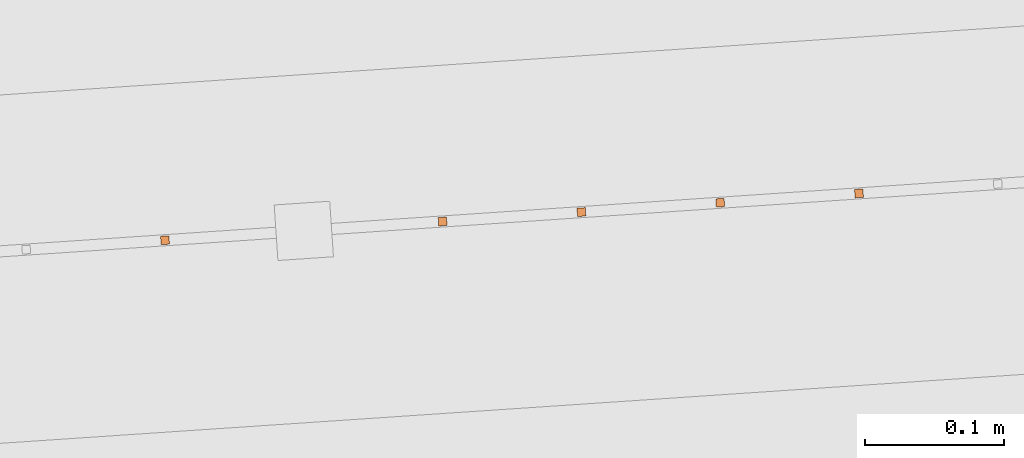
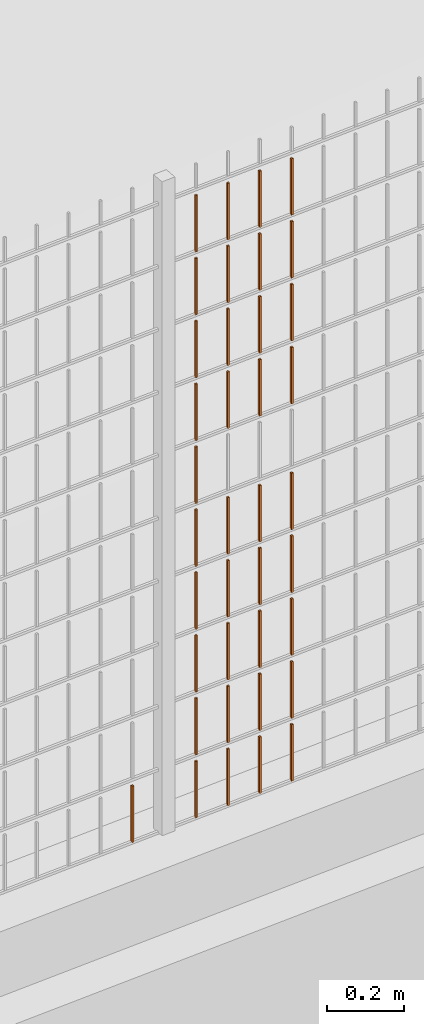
# One storey, part 172 of 1809: 38 proxies, 1 element without a shape of its own.
"""IFC2X3 building model written with IfcOpenShell, lengths in millimetres."""

import ifcopenshell
import ifcopenshell.guid

model = None  # the IFC model being written
_history = None  # IfcOwnerHistory: only IFC2X3 demands one
_inside = {}  # id of a spatial element -> (the spatial element, [elements in it])
_under = {}  # id of a project, library or spatial element -> (it, [spatial elements below it])
_declared = {}  # id of a project -> (the project, [libraries it declares])
_typed = {}  # id of a type object -> (the type object, [elements of that type])
_made_of = {}  # id of a material, layer set ... -> (it, [elements and type objects made of it])


def new_model(schema):
    """Start an empty IFC model of exactly this schema.

    Asked for "IFC4X3", IfcOpenShell would pick the latest addendum, in which some entities
    have other attributes; the version numbers below select the first issue.
    IFC2X3 requires an IfcOwnerHistory on every rooted entity: one is made here for all.
    """
    global model, _history
    if schema == "IFC4X3":
        model = ifcopenshell.file(schema_version=(4, 3, 0, 0))
    else:
        model = ifcopenshell.file(schema=schema)
    _inside.clear()
    _under.clear()
    _declared.clear()
    _typed.clear()
    _made_of.clear()
    _history = None
    if model.schema == "IFC2X3":
        org = make("IfcOrganization", Name="unknown")
        user = make(
            "IfcPersonAndOrganization",
            ThePerson=make("IfcPerson", FamilyName="unknown"),
            TheOrganization=org,
        )
        app = make(
            "IfcApplication",
            ApplicationDeveloper=org,
            Version="unknown",
            ApplicationFullName="unknown",
            ApplicationIdentifier="unknown",
        )
        _history = make(
            "IfcOwnerHistory",
            OwningUser=user,
            OwningApplication=app,
            ChangeAction="ADDED",
            CreationDate=0,
        )
    return model


def make(cls, **values):
    """One entity of the class cls with the attributes given. An attribute that is None is left unset."""
    return model.create_entity(
        cls, **{name: value for name, value in values.items() if value is not None}
    )


def entity(cls, *values):
    """Any entity or typed value of the class cls, its attributes in the order of the schema. None: left unset."""
    e = model.create_entity(cls)
    for i, value in enumerate(values):
        if value is not None:
            e[i] = value
    return e


def rooted(cls, **values):
    """An entity with a GlobalId (a new one), such as an element, a storey or a relation."""
    return make(cls, GlobalId=ifcopenshell.guid.new(), OwnerHistory=_history, **values)


def si_unit(unit_type, name, prefix=None):
    """IfcSIUnit, for example si_unit("LENGTHUNIT", "METRE", prefix="MILLI")."""
    return make("IfcSIUnit", UnitType=unit_type, Prefix=prefix, Name=name)


def converted_unit(unit_type, name, factor, base, dimensions=None, offset=None):
    """IfcConversionBasedUnit, such as the inch: factor (a typed value) times the base unit."""
    return make(
        "IfcConversionBasedUnit"
        if offset is None
        else "IfcConversionBasedUnitWithOffset",
        ConversionOffset=offset,
        Dimensions=None
        if dimensions is None
        else entity("IfcDimensionalExponents", *dimensions),
        UnitType=unit_type,
        Name=name,
        ConversionFactor=make(
            "IfcMeasureWithUnit", ValueComponent=factor, UnitComponent=base
        ),
    )


def derived_unit(unit_type, elements):
    """IfcDerivedUnit: a product of units, each with its exponent."""
    return make(
        "IfcDerivedUnit",
        Elements=[
            make("IfcDerivedUnitElement", Unit=unit, Exponent=power)
            for unit, power in elements
        ],
        UnitType=unit_type,
    )


def money_unit(currency):
    """IfcMonetaryUnit."""
    return make("IfcMonetaryUnit", Currency=currency)


def assignment(units):
    """IfcUnitAssignment: the units of a project."""
    return None if units is None else make("IfcUnitAssignment", Units=units)


def point(xyz):
    """IfcCartesianPoint."""
    return None if xyz is None else make("IfcCartesianPoint", Coordinates=xyz)


def direction(xyz):
    """IfcDirection."""
    return None if xyz is None else make("IfcDirection", DirectionRatios=xyz)


def frame(location, z_axis=None, x_axis=None):
    """IfcAxis2Placement3D, a coordinate frame: its origin and axes. An axis left out is left unset."""
    return make(
        "IfcAxis2Placement3D",
        Location=point(location),
        Axis=direction(z_axis),
        RefDirection=direction(x_axis),
    )


def origin_with_axes():
    """The frame at (0, 0, 0) with the z axis (0, 0, 1) and the x axis (1, 0, 0) written out."""
    return frame((0.0, 0.0, 0.0), z_axis=(0.0, 0.0, 1.0), x_axis=(1.0, 0.0, 0.0))


def place(relative_to, where):
    """IfcLocalPlacement: puts the frame where relative to a parent placement (None: the world)."""
    return make(
        "IfcLocalPlacement", PlacementRelTo=relative_to, RelativePlacement=where
    )


def context(
    kind, dimensions, precision=None, world=None, true_north=None, identifier=None
):
    """IfcGeometricRepresentationContext, for example the 3D "Model" context."""
    return make(
        "IfcGeometricRepresentationContext",
        ContextIdentifier=identifier,
        ContextType=kind,
        CoordinateSpaceDimension=dimensions,
        Precision=precision,
        WorldCoordinateSystem=world,
        TrueNorth=true_north,
    )


def subcontext(parent, identifier, kind, view, scale=None):
    """IfcGeometricRepresentationSubContext, for example "Body" below "Model"."""
    return make(
        "IfcGeometricRepresentationSubContext",
        ContextIdentifier=identifier,
        ContextType=kind,
        ParentContext=parent,
        TargetScale=scale,
        TargetView=view,
    )


def project(units=None, contexts=None):
    """IfcProject with its units and contexts."""
    return rooted(
        "IfcProject",
        Name="project",
        RepresentationContexts=contexts,
        UnitsInContext=assignment(units),
    )


def spatial(cls, under=None, at=None, **own):
    """A site, building, storey or space (cls), placed at a placement, below another one or the project."""
    s = rooted(cls, ObjectPlacement=at, **own)
    if under is not None:
        _under.setdefault(under.id(), (under, []))[1].append(s)
    return s


def faces_of(points, faces, orient=None, outer=None):
    """IfcFace entities. A face is a list of loops; a loop is a list of indices into points, from 0.

    orient and outer hold one flag for each loop. By default every Orientation is true, the
    first loop of a face is its IfcFaceOuterBound and the others are IfcFaceBound.
    """
    made = []
    for i, loops in enumerate(faces):
        bounds = []
        for j, loop in enumerate(loops):
            is_outer = j == 0 if outer is None else outer[i][j]
            bounds.append(
                make(
                    "IfcFaceOuterBound" if is_outer else "IfcFaceBound",
                    Bound=make("IfcPolyLoop", Polygon=[points[k] for k in loop]),
                    Orientation=True if orient is None else orient[i][j],
                )
            )
        made.append(make("IfcFace", Bounds=bounds))
    return made


def faceted_brep(points, faces, orient=None, outer=None, voids=None):
    """IfcFacetedBrep: a solid bounded by flat faces; with voids (closed shells), ...WithVoids."""
    shared = [point(p) for p in points]
    hull = make("IfcClosedShell", CfsFaces=faces_of(shared, faces, orient, outer))
    if voids is None:
        return make("IfcFacetedBrep", Outer=hull)
    return make(
        "IfcFacetedBrepWithVoids",
        Outer=hull,
        Voids=[
            make(cls, CfsFaces=faces_of(shared, fs, o, b)) for cls, fs, o, b in voids
        ],
    )


def shape(context_of_items, identifier, shape_type, items):
    """IfcShapeRepresentation: the items that make up one representation, for example the "Body"."""
    return make(
        "IfcShapeRepresentation",
        ContextOfItems=context_of_items,
        RepresentationIdentifier=identifier,
        RepresentationType=shape_type,
        Items=items,
    )


def source(mapping_origin, context_of_items, identifier, shape_type, items):
    """IfcRepresentationMap: a shape defined once, which mapped items show again and again."""
    return make(
        "IfcRepresentationMap",
        MappingOrigin=mapping_origin,
        MappedRepresentation=shape(context_of_items, identifier, shape_type, items),
    )


def transform(
    local_origin,
    x_axis=None,
    y_axis=None,
    z_axis=None,
    scale=None,
    scale2=None,
    scale3=None,
    uniform=True,
):
    """IfcCartesianTransformationOperator3D, or its non-uniform kind. x_axis, y_axis, z_axis: its Axis1, 2, 3."""
    if uniform:
        return make(
            "IfcCartesianTransformationOperator3D",
            Axis1=direction(x_axis),
            Axis2=direction(y_axis),
            LocalOrigin=point(local_origin),
            Scale=scale,
            Axis3=direction(z_axis),
        )
    return make(
        "IfcCartesianTransformationOperator3DnonUniform",
        Axis1=direction(x_axis),
        Axis2=direction(y_axis),
        LocalOrigin=point(local_origin),
        Scale=scale,
        Axis3=direction(z_axis),
        Scale2=scale2,
        Scale3=scale3,
    )


def mapped(mapping_source, mapping_target):
    """IfcMappedItem: shows the shape of a source again, moved by a transform."""
    return make(
        "IfcMappedItem", MappingSource=mapping_source, MappingTarget=mapping_target
    )


def material(Name=None, Category=None):
    """IfcMaterial."""
    return make("IfcMaterial", Name=Name, Category=Category)


def made_of(thing, what):
    """Note that an element or type object is made of a material, layer set ...; save() writes the relation."""
    if what is not None:
        _made_of.setdefault(what.id(), (what, []))[1].append(thing)
    return thing


def type_object(cls, material=None, **own):
    """A type object (cls), such as IfcWallType, which elements share."""
    return made_of(rooted(cls, **own), material)


def element(
    cls,
    number,
    at=None,
    inside=None,
    cuts=None,
    type_object=None,
    material=None,
    context=None,
    identifier="Body",
    shape_type=None,
    held_by="IfcProductDefinitionShape",
    body=None,
    shapes=None,
    **own,
):
    """One element of the class cls, such as IfcWall. Its Tag is "e" and its number.

    at: its placement. inside: the storey or other place that contains it. cuts: it is an
    opening in that element (IfcRelVoidsElement). A single representation is given by context,
    identifier, shape_type and body (its items); several are given by shapes. held_by: the class
    of the entity that holds the representations. save() writes the other relations.
    """
    e = rooted(cls, Tag="e%d" % number, ObjectPlacement=at, **own)
    if body is not None:
        shapes = [shape(context, identifier, shape_type, body)]
    if shapes is not None:
        e.Representation = make(held_by, Representations=shapes)
    if inside is not None:
        _inside.setdefault(inside.id(), (inside, []))[1].append(e)
    if cuts is not None:
        rooted(
            "IfcRelVoidsElement", RelatingBuildingElement=cuts, RelatedOpeningElement=e
        )
    if type_object is not None:
        _typed.setdefault(type_object.id(), (type_object, []))[1].append(e)
    return made_of(e, material)


def aggregate(whole, parts):
    """IfcRelAggregates: a whole, such as a stair, and the parts it consists of."""
    return rooted("IfcRelAggregates", RelatingObject=whole, RelatedObjects=parts)


def save(model, path):
    """Write the relations noted so far, then the file.

    IfcRelAggregates (storeys below a building ...), IfcRelContainedInSpatialStructure (elements
    in a storey), IfcRelDefinesByType, IfcRelAssociatesMaterial and IfcRelDeclares: one each for
    every whole, place, type object, material and project.
    """
    for whole, parts in _under.values():
        aggregate(whole, parts)
    for where, things in _inside.values():
        rooted(
            "IfcRelContainedInSpatialStructure",
            RelatedElements=things,
            RelatingStructure=where,
        )
    for kind, things in _typed.values():
        rooted("IfcRelDefinesByType", RelatedObjects=things, RelatingType=kind)
    for what, things in _made_of.values():
        rooted("IfcRelAssociatesMaterial", RelatedObjects=things, RelatingMaterial=what)
    for by, libraries in _declared.values():
        rooted("IfcRelDeclares", RelatingContext=by, RelatedDefinitions=libraries)
    model.write(path)


model = new_model("IFC2X3")

# Units and contexts
model_context = context("Model", 3, precision=0.01, world=origin_with_axes(), true_north=direction((0.0, 1.0)))
body_context = subcontext(model_context, "Body", "Model", "MODEL_VIEW")
ifc_project = project(units=[si_unit("LENGTHUNIT", "METRE", prefix="MILLI"), si_unit("AREAUNIT", "SQUARE_METRE"), si_unit("VOLUMEUNIT", "CUBIC_METRE"), converted_unit("PLANEANGLEUNIT", "DEGREE", entity("IfcPlaneAngleMeasure", 0.0174532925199), si_unit("PLANEANGLEUNIT", "RADIAN"), dimensions=[0, 0, 0, 0, 0, 0, 0]), si_unit("SOLIDANGLEUNIT", "STERADIAN"), money_unit("EUR"), converted_unit("TIMEUNIT", "Year", entity("IfcTimeMeasure", 31556926.0), si_unit("TIMEUNIT", "SECOND"), dimensions=[0, 0, 1, 0, 0, 0, 0]), si_unit("MASSUNIT", "GRAM", prefix="KILO"), si_unit("THERMODYNAMICTEMPERATUREUNIT", "DEGREE_CELSIUS"), si_unit("LUMINOUSINTENSITYUNIT", "LUMEN"), si_unit("ENERGYUNIT", "JOULE", prefix="MEGA"), derived_unit("THERMALCONDUCTANCEUNIT", [(si_unit("POWERUNIT", "WATT"), 1), (si_unit("LENGTHUNIT", "METRE"), -1), (si_unit("THERMODYNAMICTEMPERATUREUNIT", "KELVIN"), -1)]), derived_unit("SPECIFICHEATCAPACITYUNIT", [(si_unit("ENERGYUNIT", "JOULE"), 1), (si_unit("MASSUNIT", "GRAM", prefix="KILO"), -1), (si_unit("THERMODYNAMICTEMPERATUREUNIT", "KELVIN"), -1)]), derived_unit("MASSDENSITYUNIT", [(si_unit("MASSUNIT", "GRAM", prefix="KILO"), 1), (si_unit("VOLUMEUNIT", "CUBIC_METRE"), -1)])], contexts=[model_context])

# Site, building, storey
site_placement = place(None, origin_with_axes())
site = spatial("IfcSite", under=ifc_project, at=site_placement, Name="Politse- ja Piirivalveameti ning Päästeameti ühishoone", CompositionType="ELEMENT")
building_placement = place(site_placement, origin_with_axes())
building = spatial("IfcBuilding", under=site, at=building_placement, Name="Politse- ja Piirivalveameti ning Päästeameti ühishoone", CompositionType="ELEMENT")
storey_placement = place(building_placement, origin_with_axes())
storey = spatial("IfcBuildingStorey", under=building, at=storey_placement, Name="Esimene korrus", CompositionType="ELEMENT", Elevation=0.0)

# Proxies
building_element_proxy_type_1 = type_object("IfcBuildingElementProxyType", Name="Railing Type", PredefinedType="NOTDEFINED")
proxy_1_placement = place(storey_placement, frame((89252.001212, -29183.4766571, 203.661247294), z_axis=(0.0, 0.0, 1.0), x_axis=(1.0, 0.0, 0.0)))
proxy_1 = element("IfcBuildingElementProxy", 1, at=proxy_1_placement, inside=storey, type_object=building_element_proxy_type_1, Name="PIIRDEAED")
ifc_material = material(Name="ET-03_Raud")
building_element_proxy_type_2 = type_object("IfcBuildingElementProxyType", Name="IfcBuildingElementProxy", PredefinedType="NOTDEFINED")
shared_shape_1 = source(origin_with_axes(), body_context, "Body", "Brep", [
    faceted_brep([(3.0, 3.0, -0.000752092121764), (-3.0, 3.0, -0.000752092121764), (-3.0, 3.0, 179.99926046), (3.0, 3.0, 179.99926046), (3.0, -3.0, 0.000752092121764), (-3.0, -3.0, 0.000752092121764), (-3.0, -3.0, 180.000764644), (3.0, -3.0, 180.000764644)], [[[0, 1, 2, 3]], [[0, 4, 5, 1]], [[1, 5, 6, 2]], [[3, 2, 6, 7]], [[4, 0, 3, 7]], [[5, 4, 7, 6]]]),
])
proxy_2_placement = place(proxy_1_placement, frame((-74257.4811445, -22313.5873753, 808.575810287), z_axis=(0.0, 0.0, 1.0), x_axis=(1.0, 0.0, 0.0)))
proxy_2 = element("IfcBuildingElementProxy", 2, at=proxy_2_placement, type_object=building_element_proxy_type_2, material=ifc_material, Name="BALUSTER - 001", context=body_context, shape_type="MappedRepresentation", body=[
    mapped(shared_shape_1, transform((0.0, 0.0, 0.0), x_axis=(-0.0673926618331, 0.997726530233, 0.0), y_axis=(-0.997726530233, -0.0673926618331, 0.0), z_axis=(0.0, 0.0, 1.0))),
])
proxy_3_placement = place(proxy_1_placement, frame((-74257.4811445, -22313.5873753, 1208.57581029), z_axis=(0.0, 0.0, 1.0), x_axis=(1.0, 0.0, 0.0)))
proxy_3 = element("IfcBuildingElementProxy", 3, at=proxy_3_placement, type_object=building_element_proxy_type_2, material=ifc_material, Name="BALUSTER - 001", context=body_context, shape_type="MappedRepresentation", body=[
    mapped(shared_shape_1, transform((0.0, 0.0, 0.0), x_axis=(-0.0673926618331, 0.997726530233, 0.0), y_axis=(-0.997726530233, -0.0673926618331, 0.0), z_axis=(0.0, 0.0, 1.0))),
])
shared_shape_2 = source(origin_with_axes(), body_context, "Body", "Brep", [
    faceted_brep([(3.0, 3.0, -0.000752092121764), (-3.0, 3.0, -0.000752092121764), (-3.0, 3.0, 179.99926046), (3.0, 3.0, 179.99926046), (3.0, -3.0, 0.000752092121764), (-3.0, -3.0, 0.000752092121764), (-3.0, -3.0, 180.000764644), (3.0, -3.0, 180.000764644)], [[[0, 1, 2, 3]], [[0, 4, 5, 1]], [[1, 5, 6, 2]], [[3, 2, 6, 7]], [[4, 0, 3, 7]], [[5, 4, 7, 6]]]),
])
proxy_4_placement = place(proxy_1_placement, frame((-74257.4811445, -22313.5873753, 1408.57581029), z_axis=(0.0, 0.0, 1.0), x_axis=(1.0, 0.0, 0.0)))
proxy_4 = element("IfcBuildingElementProxy", 4, at=proxy_4_placement, type_object=building_element_proxy_type_2, material=ifc_material, Name="BALUSTER - 001", context=body_context, shape_type="MappedRepresentation", body=[
    mapped(shared_shape_2, transform((0.0, 0.0, 0.0), x_axis=(-0.0673926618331, 0.997726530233, 0.0), y_axis=(-0.997726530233, -0.0673926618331, 0.0), z_axis=(0.0, 0.0, 1.0))),
])
proxy_5_placement = place(proxy_1_placement, frame((-74257.4811445, -22313.5873753, 1608.57581029), z_axis=(0.0, 0.0, 1.0), x_axis=(1.0, 0.0, 0.0)))
proxy_5 = element("IfcBuildingElementProxy", 5, at=proxy_5_placement, type_object=building_element_proxy_type_2, material=ifc_material, Name="BALUSTER - 001", context=body_context, shape_type="MappedRepresentation", body=[
    mapped(shared_shape_2, transform((0.0, 0.0, 0.0), x_axis=(-0.0673926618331, 0.997726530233, 0.0), y_axis=(-0.997726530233, -0.0673926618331, 0.0), z_axis=(0.0, 0.0, 1.0))),
])
shared_shape_3 = source(origin_with_axes(), body_context, "Body", "Brep", [
    faceted_brep([(3.0, 3.0, -0.000752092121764), (-3.0, 3.0, -0.000752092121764), (-3.0, 3.0, 179.99926046), (3.0, 3.0, 179.99926046), (3.0, -3.0, 0.000752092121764), (-3.0, -3.0, 0.000752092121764), (-3.0, -3.0, 180.000764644), (3.0, -3.0, 180.000764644)], [[[0, 1, 2, 3]], [[0, 4, 5, 1]], [[1, 5, 6, 2]], [[3, 2, 6, 7]], [[4, 0, 3, 7]], [[5, 4, 7, 6]]]),
])
proxy_6_placement = place(proxy_1_placement, frame((-74257.4811445, -22313.5873753, 1808.57581029), z_axis=(0.0, 0.0, 1.0), x_axis=(1.0, 0.0, 0.0)))
proxy_6 = element("IfcBuildingElementProxy", 6, at=proxy_6_placement, type_object=building_element_proxy_type_2, material=ifc_material, Name="BALUSTER - 001", context=body_context, shape_type="MappedRepresentation", body=[
    mapped(shared_shape_3, transform((0.0, 0.0, 0.0), x_axis=(-0.0673926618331, 0.997726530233, 0.0), y_axis=(-0.997726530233, -0.0673926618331, 0.0), z_axis=(0.0, 0.0, 1.0))),
])
shared_shape_4 = source(origin_with_axes(), body_context, "Body", "Brep", [
    faceted_brep([(3.0, 3.0, -0.000752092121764), (-3.0, 3.0, -0.000752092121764), (-3.0, 3.0, 179.99926046), (3.0, 3.0, 179.99926046), (3.0, -3.0, 0.000752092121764), (-3.0, -3.0, 0.000752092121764), (-3.0, -3.0, 180.000764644), (3.0, -3.0, 180.000764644)], [[[0, 1, 2, 3]], [[0, 4, 5, 1]], [[1, 5, 6, 2]], [[3, 2, 6, 7]], [[4, 0, 3, 7]], [[5, 4, 7, 6]]]),
])
proxy_7_placement = place(proxy_1_placement, frame((-74257.4811445, -22313.5873753, 208.575810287), z_axis=(0.0, 0.0, 1.0), x_axis=(1.0, 0.0, 0.0)))
proxy_7 = element("IfcBuildingElementProxy", 7, at=proxy_7_placement, type_object=building_element_proxy_type_2, material=ifc_material, Name="BALUSTER - 001", context=body_context, shape_type="MappedRepresentation", body=[
    mapped(shared_shape_4, transform((0.0, 0.0, 0.0), x_axis=(-0.0673926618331, 0.997726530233, 0.0), y_axis=(-0.997726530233, -0.0673926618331, 0.0), z_axis=(0.0, 0.0, 1.0))),
])
proxy_8_placement = place(proxy_1_placement, frame((-74257.4811445, -22313.5873753, 408.575810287), z_axis=(0.0, 0.0, 1.0), x_axis=(1.0, 0.0, 0.0)))
proxy_8 = element("IfcBuildingElementProxy", 8, at=proxy_8_placement, type_object=building_element_proxy_type_2, material=ifc_material, Name="BALUSTER - 001", context=body_context, shape_type="MappedRepresentation", body=[
    mapped(shared_shape_4, transform((0.0, 0.0, 0.0), x_axis=(-0.0673926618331, 0.997726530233, 0.0), y_axis=(-0.997726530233, -0.0673926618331, 0.0), z_axis=(0.0, 0.0, 1.0))),
])
proxy_9_placement = place(proxy_1_placement, frame((-74257.4811445, -22313.5873753, 608.575810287), z_axis=(0.0, 0.0, 1.0), x_axis=(1.0, 0.0, 0.0)))
proxy_9 = element("IfcBuildingElementProxy", 9, at=proxy_9_placement, type_object=building_element_proxy_type_2, material=ifc_material, Name="BALUSTER - 001", context=body_context, shape_type="MappedRepresentation", body=[
    mapped(shared_shape_4, transform((0.0, 0.0, 0.0), x_axis=(-0.0673926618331, 0.997726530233, 0.0), y_axis=(-0.997726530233, -0.0673926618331, 0.0), z_axis=(0.0, 0.0, 1.0))),
])
shared_shape_5 = source(origin_with_axes(), body_context, "Body", "Brep", [
    faceted_brep([(3.0, 3.0, -0.000752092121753), (-3.0, 3.0, -0.000752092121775), (-3.0, 3.0, 179.99926046), (3.0, 3.0, 179.99926046), (3.0, -3.0, 0.000752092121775), (-3.0, -3.0, 0.000752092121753), (-3.0, -3.0, 180.000764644), (3.0, -3.0, 180.000764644)], [[[0, 1, 2, 3]], [[0, 4, 5, 1]], [[1, 5, 6, 2]], [[3, 2, 6, 7]], [[4, 0, 3, 7]], [[5, 4, 7, 6]]]),
])
proxy_10_placement = place(proxy_1_placement, frame((-74457.0264506, -22327.0659077, 8.52567081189), z_axis=(0.0, 0.0, 1.0), x_axis=(1.0, 0.0, 0.0)))
proxy_10 = element("IfcBuildingElementProxy", 10, at=proxy_10_placement, type_object=building_element_proxy_type_2, material=ifc_material, Name="BALUSTER - 001", context=body_context, shape_type="MappedRepresentation", body=[
    mapped(shared_shape_5, transform((0.0, 0.0, 0.0), x_axis=(-0.0673926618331, 0.997726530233, 0.0), y_axis=(-0.997726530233, -0.0673926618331, 0.0), z_axis=(0.0, 0.0, 1.0))),
])
proxy_11_placement = place(proxy_1_placement, frame((-74556.7991036, -22333.8051738, 8.5006010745), z_axis=(0.0, 0.0, 1.0), x_axis=(1.0, 0.0, 0.0)))
proxy_11 = element("IfcBuildingElementProxy", 11, at=proxy_11_placement, type_object=building_element_proxy_type_2, material=ifc_material, Name="BALUSTER - 001", context=body_context, shape_type="MappedRepresentation", body=[
    mapped(shared_shape_5, transform((0.0, 0.0, 0.0), x_axis=(-0.0673926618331, 0.997726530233, 0.0), y_axis=(-0.997726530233, -0.0673926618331, 0.0), z_axis=(0.0, 0.0, 1.0))),
])
proxy_12_placement = place(proxy_1_placement, frame((-74556.7991036, -22333.8051738, 208.500601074), z_axis=(0.0, 0.0, 1.0), x_axis=(1.0, 0.0, 0.0)))
proxy_12 = element("IfcBuildingElementProxy", 12, at=proxy_12_placement, type_object=building_element_proxy_type_2, material=ifc_material, Name="BALUSTER - 001", context=body_context, shape_type="MappedRepresentation", body=[
    mapped(shared_shape_5, transform((0.0, 0.0, 0.0), x_axis=(-0.0673926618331, 0.997726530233, 0.0), y_axis=(-0.997726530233, -0.0673926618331, 0.0), z_axis=(0.0, 0.0, 1.0))),
])
shared_shape_6 = source(origin_with_axes(), body_context, "Body", "Brep", [
    faceted_brep([(3.0, 3.0, -0.000752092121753), (-3.0, 3.0, -0.000752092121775), (-3.0, 3.0, 179.99926046), (3.0, 3.0, 179.99926046), (3.0, -3.0, 0.000752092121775), (-3.0, -3.0, 0.000752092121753), (-3.0, -3.0, 180.000764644), (3.0, -3.0, 180.000764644)], [[[0, 1, 2, 3]], [[0, 4, 5, 1]], [[1, 5, 6, 2]], [[3, 2, 6, 7]], [[4, 0, 3, 7]], [[5, 4, 7, 6]]]),
])
proxy_13_placement = place(proxy_1_placement, frame((-74457.0264506, -22327.0659077, 608.525670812), z_axis=(0.0, 0.0, 1.0), x_axis=(1.0, 0.0, 0.0)))
proxy_13 = element("IfcBuildingElementProxy", 13, at=proxy_13_placement, type_object=building_element_proxy_type_2, material=ifc_material, Name="BALUSTER - 001", context=body_context, shape_type="MappedRepresentation", body=[
    mapped(shared_shape_6, transform((0.0, 0.0, 0.0), x_axis=(-0.0673926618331, 0.997726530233, 0.0), y_axis=(-0.997726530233, -0.0673926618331, 0.0), z_axis=(0.0, 0.0, 1.0))),
])
shared_shape_7 = source(origin_with_axes(), body_context, "Body", "Brep", [
    faceted_brep([(3.0, 3.0, -0.000752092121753), (-3.0, 3.0, -0.000752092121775), (-3.0, 3.0, 179.99926046), (3.0, 3.0, 179.99926046), (3.0, -3.0, 0.000752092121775), (-3.0, -3.0, 0.000752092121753), (-3.0, -3.0, 180.000764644), (3.0, -3.0, 180.000764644)], [[[0, 1, 2, 3]], [[0, 4, 5, 1]], [[1, 5, 6, 2]], [[3, 2, 6, 7]], [[4, 0, 3, 7]], [[5, 4, 7, 6]]]),
])
proxy_14_placement = place(proxy_1_placement, frame((-74457.0264506, -22327.0659077, 408.525670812), z_axis=(0.0, 0.0, 1.0), x_axis=(1.0, 0.0, 0.0)))
proxy_14 = element("IfcBuildingElementProxy", 14, at=proxy_14_placement, type_object=building_element_proxy_type_2, material=ifc_material, Name="BALUSTER - 001", context=body_context, shape_type="MappedRepresentation", body=[
    mapped(shared_shape_7, transform((0.0, 0.0, 0.0), x_axis=(-0.0673926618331, 0.997726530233, 0.0), y_axis=(-0.997726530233, -0.0673926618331, 0.0), z_axis=(0.0, 0.0, 1.0))),
])
proxy_15_placement = place(proxy_1_placement, frame((-74556.7991036, -22333.8051738, 608.500601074), z_axis=(0.0, 0.0, 1.0), x_axis=(1.0, 0.0, 0.0)))
proxy_15 = element("IfcBuildingElementProxy", 15, at=proxy_15_placement, type_object=building_element_proxy_type_2, material=ifc_material, Name="BALUSTER - 001", context=body_context, shape_type="MappedRepresentation", body=[
    mapped(shared_shape_7, transform((0.0, 0.0, 0.0), x_axis=(-0.0673926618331, 0.997726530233, 0.0), y_axis=(-0.997726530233, -0.0673926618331, 0.0), z_axis=(0.0, 0.0, 1.0))),
])
proxy_16_placement = place(proxy_1_placement, frame((-74457.0264506, -22327.0659077, 808.525670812), z_axis=(0.0, 0.0, 1.0), x_axis=(1.0, 0.0, 0.0)))
proxy_16 = element("IfcBuildingElementProxy", 16, at=proxy_16_placement, type_object=building_element_proxy_type_2, material=ifc_material, Name="BALUSTER - 001", context=body_context, shape_type="MappedRepresentation", body=[
    mapped(shared_shape_7, transform((0.0, 0.0, 0.0), x_axis=(-0.0673926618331, 0.997726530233, 0.0), y_axis=(-0.997726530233, -0.0673926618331, 0.0), z_axis=(0.0, 0.0, 1.0))),
])
proxy_17_placement = place(proxy_1_placement, frame((-74556.7991036, -22333.8051738, 808.500601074), z_axis=(0.0, 0.0, 1.0), x_axis=(1.0, 0.0, 0.0)))
proxy_17 = element("IfcBuildingElementProxy", 17, at=proxy_17_placement, type_object=building_element_proxy_type_2, material=ifc_material, Name="BALUSTER - 001", context=body_context, shape_type="MappedRepresentation", body=[
    mapped(shared_shape_7, transform((0.0, 0.0, 0.0), x_axis=(-0.0673926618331, 0.997726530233, 0.0), y_axis=(-0.997726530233, -0.0673926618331, 0.0), z_axis=(0.0, 0.0, 1.0))),
])
proxy_18_placement = place(proxy_1_placement, frame((-74457.0264506, -22327.0659077, 1208.52567081), z_axis=(0.0, 0.0, 1.0), x_axis=(1.0, 0.0, 0.0)))
proxy_18 = element("IfcBuildingElementProxy", 18, at=proxy_18_placement, type_object=building_element_proxy_type_2, material=ifc_material, Name="BALUSTER - 001", context=body_context, shape_type="MappedRepresentation", body=[
    mapped(shared_shape_7, transform((0.0, 0.0, 0.0), x_axis=(-0.0673926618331, 0.997726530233, 0.0), y_axis=(-0.997726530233, -0.0673926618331, 0.0), z_axis=(0.0, 0.0, 1.0))),
])
proxy_19_placement = place(proxy_1_placement, frame((-74556.7991036, -22333.8051738, 1208.50060107), z_axis=(0.0, 0.0, 1.0), x_axis=(1.0, 0.0, 0.0)))
proxy_19 = element("IfcBuildingElementProxy", 19, at=proxy_19_placement, type_object=building_element_proxy_type_2, material=ifc_material, Name="BALUSTER - 001", context=body_context, shape_type="MappedRepresentation", body=[
    mapped(shared_shape_7, transform((0.0, 0.0, 0.0), x_axis=(-0.0673926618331, 0.997726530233, 0.0), y_axis=(-0.997726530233, -0.0673926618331, 0.0), z_axis=(0.0, 0.0, 1.0))),
])
shared_shape_8 = source(origin_with_axes(), body_context, "Body", "Brep", [
    faceted_brep([(3.0, 3.0, -0.000752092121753), (-3.0, 3.0, -0.000752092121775), (-3.0, 3.0, 179.99926046), (3.0, 3.0, 179.99926046), (3.0, -3.0, 0.000752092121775), (-3.0, -3.0, 0.000752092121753), (-3.0, -3.0, 180.000764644), (3.0, -3.0, 180.000764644)], [[[0, 1, 2, 3]], [[0, 4, 5, 1]], [[1, 5, 6, 2]], [[3, 2, 6, 7]], [[4, 0, 3, 7]], [[5, 4, 7, 6]]]),
])
proxy_20_placement = place(proxy_1_placement, frame((-74457.0264506, -22327.0659077, 1408.52567081), z_axis=(0.0, 0.0, 1.0), x_axis=(1.0, 0.0, 0.0)))
proxy_20 = element("IfcBuildingElementProxy", 20, at=proxy_20_placement, type_object=building_element_proxy_type_2, material=ifc_material, Name="BALUSTER - 001", context=body_context, shape_type="MappedRepresentation", body=[
    mapped(shared_shape_8, transform((0.0, 0.0, 0.0), x_axis=(-0.0673926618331, 0.997726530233, 0.0), y_axis=(-0.997726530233, -0.0673926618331, 0.0), z_axis=(0.0, 0.0, 1.0))),
])
proxy_21_placement = place(proxy_1_placement, frame((-74556.7991036, -22333.8051738, 1408.50060107), z_axis=(0.0, 0.0, 1.0), x_axis=(1.0, 0.0, 0.0)))
proxy_21 = element("IfcBuildingElementProxy", 21, at=proxy_21_placement, type_object=building_element_proxy_type_2, material=ifc_material, Name="BALUSTER - 001", context=body_context, shape_type="MappedRepresentation", body=[
    mapped(shared_shape_8, transform((0.0, 0.0, 0.0), x_axis=(-0.0673926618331, 0.997726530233, 0.0), y_axis=(-0.997726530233, -0.0673926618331, 0.0), z_axis=(0.0, 0.0, 1.0))),
])
proxy_22_placement = place(proxy_1_placement, frame((-74457.0264506, -22327.0659077, 1608.52567081), z_axis=(0.0, 0.0, 1.0), x_axis=(1.0, 0.0, 0.0)))
proxy_22 = element("IfcBuildingElementProxy", 22, at=proxy_22_placement, type_object=building_element_proxy_type_2, material=ifc_material, Name="BALUSTER - 001", context=body_context, shape_type="MappedRepresentation", body=[
    mapped(shared_shape_8, transform((0.0, 0.0, 0.0), x_axis=(-0.0673926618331, 0.997726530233, 0.0), y_axis=(-0.997726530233, -0.0673926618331, 0.0), z_axis=(0.0, 0.0, 1.0))),
])
proxy_23_placement = place(proxy_1_placement, frame((-74556.7991036, -22333.8051738, 1608.50060107), z_axis=(0.0, 0.0, 1.0), x_axis=(1.0, 0.0, 0.0)))
proxy_23 = element("IfcBuildingElementProxy", 23, at=proxy_23_placement, type_object=building_element_proxy_type_2, material=ifc_material, Name="BALUSTER - 001", context=body_context, shape_type="MappedRepresentation", body=[
    mapped(shared_shape_8, transform((0.0, 0.0, 0.0), x_axis=(-0.0673926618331, 0.997726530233, 0.0), y_axis=(-0.997726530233, -0.0673926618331, 0.0), z_axis=(0.0, 0.0, 1.0))),
])
shared_shape_9 = source(origin_with_axes(), body_context, "Body", "Brep", [
    faceted_brep([(3.0, 3.0, -0.000752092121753), (-3.0, 3.0, -0.000752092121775), (-3.0, 3.0, 179.99926046), (3.0, 3.0, 179.99926046), (3.0, -3.0, 0.000752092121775), (-3.0, -3.0, 0.000752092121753), (-3.0, -3.0, 180.000764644), (3.0, -3.0, 180.000764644)], [[[0, 1, 2, 3]], [[0, 4, 5, 1]], [[1, 5, 6, 2]], [[3, 2, 6, 7]], [[4, 0, 3, 7]], [[5, 4, 7, 6]]]),
])
proxy_24_placement = place(proxy_1_placement, frame((-74457.0264506, -22327.0659077, 1808.52567081), z_axis=(0.0, 0.0, 1.0), x_axis=(1.0, 0.0, 0.0)))
proxy_24 = element("IfcBuildingElementProxy", 24, at=proxy_24_placement, type_object=building_element_proxy_type_2, material=ifc_material, Name="BALUSTER - 001", context=body_context, shape_type="MappedRepresentation", body=[
    mapped(shared_shape_9, transform((0.0, 0.0, 0.0), x_axis=(-0.0673926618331, 0.997726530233, 0.0), y_axis=(-0.997726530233, -0.0673926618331, 0.0), z_axis=(0.0, 0.0, 1.0))),
])
proxy_25_placement = place(proxy_1_placement, frame((-74556.7991036, -22333.8051738, 1808.50060107), z_axis=(0.0, 0.0, 1.0), x_axis=(1.0, 0.0, 0.0)))
proxy_25 = element("IfcBuildingElementProxy", 25, at=proxy_25_placement, type_object=building_element_proxy_type_2, material=ifc_material, Name="BALUSTER - 001", context=body_context, shape_type="MappedRepresentation", body=[
    mapped(shared_shape_9, transform((0.0, 0.0, 0.0), x_axis=(-0.0673926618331, 0.997726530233, 0.0), y_axis=(-0.997726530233, -0.0673926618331, 0.0), z_axis=(0.0, 0.0, 1.0))),
])
shared_shape_10 = source(origin_with_axes(), body_context, "Body", "Brep", [
    faceted_brep([(3.0, 3.0, -0.000752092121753), (-3.0, 3.0, -0.000752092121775), (-3.0, 3.0, 179.99926046), (3.0, 3.0, 179.99926046), (3.0, -3.0, 0.000752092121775), (-3.0, -3.0, 0.000752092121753), (-3.0, -3.0, 180.000764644), (3.0, -3.0, 180.000764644)], [[[0, 1, 2, 3]], [[0, 4, 5, 1]], [[1, 5, 6, 2]], [[3, 2, 6, 7]], [[4, 0, 3, 7]], [[5, 4, 7, 6]]]),
])
proxy_26_placement = place(proxy_1_placement, frame((-74556.7991036, -22333.8051738, 408.500601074), z_axis=(0.0, 0.0, 1.0), x_axis=(1.0, 0.0, 0.0)))
proxy_26 = element("IfcBuildingElementProxy", 26, at=proxy_26_placement, type_object=building_element_proxy_type_2, material=ifc_material, Name="BALUSTER - 001", context=body_context, shape_type="MappedRepresentation", body=[
    mapped(shared_shape_10, transform((0.0, 0.0, 0.0), x_axis=(-0.0673926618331, 0.997726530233, 0.0), y_axis=(-0.997726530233, -0.0673926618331, 0.0), z_axis=(0.0, 0.0, 1.0))),
])
shared_shape_11 = source(origin_with_axes(), body_context, "Body", "Brep", [
    faceted_brep([(3.0, 3.0, -0.000752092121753), (-3.0, 3.0, -0.000752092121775), (-3.0, 3.0, 179.99926046), (3.0, 3.0, 179.99926046), (3.0, -3.0, 0.000752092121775), (-3.0, -3.0, 0.000752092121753), (-3.0, -3.0, 180.000764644), (3.0, -3.0, 180.000764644)], [[[0, 1, 2, 3]], [[0, 4, 5, 1]], [[1, 5, 6, 2]], [[3, 2, 6, 7]], [[4, 0, 3, 7]], [[5, 4, 7, 6]]]),
])
proxy_27_placement = place(proxy_1_placement, frame((-74457.0264506, -22327.0659077, 208.525670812), z_axis=(0.0, 0.0, 1.0), x_axis=(1.0, 0.0, 0.0)))
proxy_27 = element("IfcBuildingElementProxy", 27, at=proxy_27_placement, type_object=building_element_proxy_type_2, material=ifc_material, Name="BALUSTER - 001", context=body_context, shape_type="MappedRepresentation", body=[
    mapped(shared_shape_11, transform((0.0, 0.0, 0.0), x_axis=(-0.0673926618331, 0.997726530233, 0.0), y_axis=(-0.997726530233, -0.0673926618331, 0.0), z_axis=(0.0, 0.0, 1.0))),
])
shared_shape_12 = source(origin_with_axes(), body_context, "Body", "Brep", [
    faceted_brep([(3.0, 3.0, -0.000752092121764), (-3.0, 3.0, -0.000752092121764), (-3.0, 3.0, 179.99926046), (3.0, 3.0, 179.99926046), (3.0, -3.0, 0.000752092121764), (-3.0, -3.0, 0.000752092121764), (-3.0, -3.0, 180.000764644), (3.0, -3.0, 180.000764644)], [[[0, 1, 2, 3]], [[0, 4, 5, 1]], [[1, 5, 6, 2]], [[3, 2, 6, 7]], [[4, 0, 3, 7]], [[5, 4, 7, 6]]]),
])
proxy_28_placement = place(proxy_1_placement, frame((-74257.4811445, -22313.5873753, 8.57581028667), z_axis=(0.0, 0.0, 1.0), x_axis=(1.0, 0.0, 0.0)))
proxy_28 = element("IfcBuildingElementProxy", 28, at=proxy_28_placement, type_object=building_element_proxy_type_2, material=ifc_material, Name="BALUSTER - 001", context=body_context, shape_type="MappedRepresentation", body=[
    mapped(shared_shape_12, transform((0.0, 0.0, 0.0), x_axis=(-0.0673926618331, 0.997726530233, 0.0), y_axis=(-0.997726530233, -0.0673926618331, 0.0), z_axis=(0.0, 0.0, 1.0))),
])
proxy_29_placement = place(proxy_1_placement, frame((-74756.3444096, -22347.2837062, 8.45046159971), z_axis=(0.0, 0.0, 1.0), x_axis=(1.0, 0.0, 0.0)))
proxy_29 = element("IfcBuildingElementProxy", 29, at=proxy_29_placement, type_object=building_element_proxy_type_2, material=ifc_material, Name="BALUSTER - 001", context=body_context, shape_type="MappedRepresentation", body=[
    mapped(shared_shape_12, transform((0.0, 0.0, 0.0), x_axis=(-0.0673926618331, 0.997726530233, 0.0), y_axis=(-0.997726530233, -0.0673926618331, 0.0), z_axis=(0.0, 0.0, 1.0))),
])
shared_shape_13 = source(origin_with_axes(), body_context, "Body", "Brep", [
    faceted_brep([(3.0, 3.0, -0.000752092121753), (-3.0, 3.0, -0.000752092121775), (-3.0, 3.0, 179.99926046), (3.0, 3.0, 179.99926046), (3.0, -3.0, 0.000752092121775), (-3.0, -3.0, 0.000752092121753), (-3.0, -3.0, 180.000764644), (3.0, -3.0, 180.000764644)], [[[0, 1, 2, 3]], [[0, 4, 5, 1]], [[1, 5, 6, 2]], [[3, 2, 6, 7]], [[4, 0, 3, 7]], [[5, 4, 7, 6]]]),
])
proxy_30_placement = place(proxy_1_placement, frame((-74357.2537976, -22320.3266415, 1808.55074055), z_axis=(0.0, 0.0, 1.0), x_axis=(1.0, 0.0, 0.0)))
proxy_30 = element("IfcBuildingElementProxy", 30, at=proxy_30_placement, type_object=building_element_proxy_type_2, material=ifc_material, Name="BALUSTER - 001", context=body_context, shape_type="MappedRepresentation", body=[
    mapped(shared_shape_13, transform((0.0, 0.0, 0.0), x_axis=(-0.0673926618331, 0.997726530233, 0.0), y_axis=(-0.997726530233, -0.0673926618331, 0.0), z_axis=(0.0, 0.0, 1.0))),
])
shared_shape_14 = source(origin_with_axes(), body_context, "Body", "Brep", [
    faceted_brep([(3.0, 3.0, -0.000752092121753), (-3.0, 3.0, -0.000752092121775), (-3.0, 3.0, 179.99926046), (3.0, 3.0, 179.99926046), (3.0, -3.0, 0.000752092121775), (-3.0, -3.0, 0.000752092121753), (-3.0, -3.0, 180.000764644), (3.0, -3.0, 180.000764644)], [[[0, 1, 2, 3]], [[0, 4, 5, 1]], [[1, 5, 6, 2]], [[3, 2, 6, 7]], [[4, 0, 3, 7]], [[5, 4, 7, 6]]]),
])
proxy_31_placement = place(proxy_1_placement, frame((-74357.2537976, -22320.3266415, 1208.55074055), z_axis=(0.0, 0.0, 1.0), x_axis=(1.0, 0.0, 0.0)))
proxy_31 = element("IfcBuildingElementProxy", 31, at=proxy_31_placement, type_object=building_element_proxy_type_2, material=ifc_material, Name="BALUSTER - 001", context=body_context, shape_type="MappedRepresentation", body=[
    mapped(shared_shape_14, transform((0.0, 0.0, 0.0), x_axis=(-0.0673926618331, 0.997726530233, 0.0), y_axis=(-0.997726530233, -0.0673926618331, 0.0), z_axis=(0.0, 0.0, 1.0))),
])
shared_shape_15 = source(origin_with_axes(), body_context, "Body", "Brep", [
    faceted_brep([(3.0, 3.0, -0.000752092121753), (-3.0, 3.0, -0.000752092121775), (-3.0, 3.0, 179.99926046), (3.0, 3.0, 179.99926046), (3.0, -3.0, 0.000752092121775), (-3.0, -3.0, 0.000752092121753), (-3.0, -3.0, 180.000764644), (3.0, -3.0, 180.000764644)], [[[0, 1, 2, 3]], [[0, 4, 5, 1]], [[1, 5, 6, 2]], [[3, 2, 6, 7]], [[4, 0, 3, 7]], [[5, 4, 7, 6]]]),
])
proxy_32_placement = place(proxy_1_placement, frame((-74357.2537976, -22320.3266415, 1408.55074055), z_axis=(0.0, 0.0, 1.0), x_axis=(1.0, 0.0, 0.0)))
proxy_32 = element("IfcBuildingElementProxy", 32, at=proxy_32_placement, type_object=building_element_proxy_type_2, material=ifc_material, Name="BALUSTER - 001", context=body_context, shape_type="MappedRepresentation", body=[
    mapped(shared_shape_15, transform((0.0, 0.0, 0.0), x_axis=(-0.0673926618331, 0.997726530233, 0.0), y_axis=(-0.997726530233, -0.0673926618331, 0.0), z_axis=(0.0, 0.0, 1.0))),
])
proxy_33_placement = place(proxy_1_placement, frame((-74357.2537976, -22320.3266415, 1608.55074055), z_axis=(0.0, 0.0, 1.0), x_axis=(1.0, 0.0, 0.0)))
proxy_33 = element("IfcBuildingElementProxy", 33, at=proxy_33_placement, type_object=building_element_proxy_type_2, material=ifc_material, Name="BALUSTER - 001", context=body_context, shape_type="MappedRepresentation", body=[
    mapped(shared_shape_15, transform((0.0, 0.0, 0.0), x_axis=(-0.0673926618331, 0.997726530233, 0.0), y_axis=(-0.997726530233, -0.0673926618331, 0.0), z_axis=(0.0, 0.0, 1.0))),
])
shared_shape_16 = source(origin_with_axes(), body_context, "Body", "Brep", [
    faceted_brep([(3.0, 3.0, -0.000752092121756), (-3.0, 3.0, -0.000752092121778), (-3.0, 3.0, 179.99926046), (3.0, 3.0, 179.99926046), (3.0, -3.0, 0.000752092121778), (-3.0, -3.0, 0.000752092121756), (-3.0, -3.0, 180.000764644), (3.0, -3.0, 180.000764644)], [[[0, 1, 2, 3]], [[0, 4, 5, 1]], [[1, 5, 6, 2]], [[3, 2, 6, 7]], [[4, 0, 3, 7]], [[5, 4, 7, 6]]]),
])
proxy_34_placement = place(proxy_1_placement, frame((-74357.2537976, -22320.3266415, 8.55074054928), z_axis=(0.0, 0.0, 1.0), x_axis=(1.0, 0.0, 0.0)))
proxy_34 = element("IfcBuildingElementProxy", 34, at=proxy_34_placement, type_object=building_element_proxy_type_2, material=ifc_material, Name="BALUSTER - 001", context=body_context, shape_type="MappedRepresentation", body=[
    mapped(shared_shape_16, transform((0.0, 0.0, 0.0), x_axis=(-0.0673926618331, 0.997726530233, 0.0), y_axis=(-0.997726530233, -0.0673926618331, 0.0), z_axis=(0.0, 0.0, 1.0))),
])
shared_shape_17 = source(origin_with_axes(), body_context, "Body", "Brep", [
    faceted_brep([(3.0, 3.0, -0.000752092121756), (-3.0, 3.0, -0.000752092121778), (-3.0, 3.0, 179.99926046), (3.0, 3.0, 179.99926046), (3.0, -3.0, 0.000752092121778), (-3.0, -3.0, 0.000752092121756), (-3.0, -3.0, 180.000764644), (3.0, -3.0, 180.000764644)], [[[0, 1, 2, 3]], [[0, 4, 5, 1]], [[1, 5, 6, 2]], [[3, 2, 6, 7]], [[4, 0, 3, 7]], [[5, 4, 7, 6]]]),
])
proxy_35_placement = place(proxy_1_placement, frame((-74357.2537976, -22320.3266415, 208.550740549), z_axis=(0.0, 0.0, 1.0), x_axis=(1.0, 0.0, 0.0)))
proxy_35 = element("IfcBuildingElementProxy", 35, at=proxy_35_placement, type_object=building_element_proxy_type_2, material=ifc_material, Name="BALUSTER - 001", context=body_context, shape_type="MappedRepresentation", body=[
    mapped(shared_shape_17, transform((0.0, 0.0, 0.0), x_axis=(-0.0673926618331, 0.997726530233, 0.0), y_axis=(-0.997726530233, -0.0673926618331, 0.0), z_axis=(0.0, 0.0, 1.0))),
])
shared_shape_18 = source(origin_with_axes(), body_context, "Body", "Brep", [
    faceted_brep([(3.0, 3.0, -0.000752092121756), (-3.0, 3.0, -0.000752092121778), (-3.0, 3.0, 179.99926046), (3.0, 3.0, 179.99926046), (3.0, -3.0, 0.000752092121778), (-3.0, -3.0, 0.000752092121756), (-3.0, -3.0, 180.000764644), (3.0, -3.0, 180.000764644)], [[[0, 1, 2, 3]], [[0, 4, 5, 1]], [[1, 5, 6, 2]], [[3, 2, 6, 7]], [[4, 0, 3, 7]], [[5, 4, 7, 6]]]),
])
proxy_36_placement = place(proxy_1_placement, frame((-74357.2537976, -22320.3266415, 408.550740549), z_axis=(0.0, 0.0, 1.0), x_axis=(1.0, 0.0, 0.0)))
proxy_36 = element("IfcBuildingElementProxy", 36, at=proxy_36_placement, type_object=building_element_proxy_type_2, material=ifc_material, Name="BALUSTER - 001", context=body_context, shape_type="MappedRepresentation", body=[
    mapped(shared_shape_18, transform((0.0, 0.0, 0.0), x_axis=(-0.0673926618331, 0.997726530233, 0.0), y_axis=(-0.997726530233, -0.0673926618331, 0.0), z_axis=(0.0, 0.0, 1.0))),
])
shared_shape_19 = source(origin_with_axes(), body_context, "Body", "Brep", [
    faceted_brep([(3.0, 3.0, -0.000752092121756), (-3.0, 3.0, -0.000752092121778), (-3.0, 3.0, 179.99926046), (3.0, 3.0, 179.99926046), (3.0, -3.0, 0.000752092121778), (-3.0, -3.0, 0.000752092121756), (-3.0, -3.0, 180.000764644), (3.0, -3.0, 180.000764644)], [[[0, 1, 2, 3]], [[0, 4, 5, 1]], [[1, 5, 6, 2]], [[3, 2, 6, 7]], [[4, 0, 3, 7]], [[5, 4, 7, 6]]]),
])
proxy_37_placement = place(proxy_1_placement, frame((-74357.2537976, -22320.3266415, 608.550740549), z_axis=(0.0, 0.0, 1.0), x_axis=(1.0, 0.0, 0.0)))
proxy_37 = element("IfcBuildingElementProxy", 37, at=proxy_37_placement, type_object=building_element_proxy_type_2, material=ifc_material, Name="BALUSTER - 001", context=body_context, shape_type="MappedRepresentation", body=[
    mapped(shared_shape_19, transform((0.0, 0.0, 0.0), x_axis=(-0.0673926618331, 0.997726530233, 0.0), y_axis=(-0.997726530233, -0.0673926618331, 0.0), z_axis=(0.0, 0.0, 1.0))),
])
shared_shape_20 = source(origin_with_axes(), body_context, "Body", "Brep", [
    faceted_brep([(3.0, 3.0, -0.000752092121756), (-3.0, 3.0, -0.000752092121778), (-3.0, 3.0, 179.99926046), (3.0, 3.0, 179.99926046), (3.0, -3.0, 0.000752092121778), (-3.0, -3.0, 0.000752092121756), (-3.0, -3.0, 180.000764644), (3.0, -3.0, 180.000764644)], [[[0, 1, 2, 3]], [[0, 4, 5, 1]], [[1, 5, 6, 2]], [[3, 2, 6, 7]], [[4, 0, 3, 7]], [[5, 4, 7, 6]]]),
])
proxy_38_placement = place(proxy_1_placement, frame((-74357.2537976, -22320.3266415, 808.550740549), z_axis=(0.0, 0.0, 1.0), x_axis=(1.0, 0.0, 0.0)))
proxy_38 = element("IfcBuildingElementProxy", 38, at=proxy_38_placement, type_object=building_element_proxy_type_2, material=ifc_material, Name="BALUSTER - 001", context=body_context, shape_type="MappedRepresentation", body=[
    mapped(shared_shape_20, transform((0.0, 0.0, 0.0), x_axis=(-0.0673926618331, 0.997726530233, 0.0), y_axis=(-0.997726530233, -0.0673926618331, 0.0), z_axis=(0.0, 0.0, 1.0))),
])
shared_shape_21 = source(origin_with_axes(), body_context, "Body", "Brep", [
    faceted_brep([(3.0, 3.0, -0.000752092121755), (-3.0, 3.0, -0.000752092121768), (-3.00000000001, 3.0, 179.99926046), (2.99999999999, 3.0, 179.99926046), (3.0, -3.0, 0.000752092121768), (-3.0, -3.0, 0.000752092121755), (-3.00000000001, -3.0, 180.000764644), (2.99999999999, -3.0, 180.000764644)], [[[0, 1, 2, 3]], [[0, 4, 5, 1]], [[1, 5, 6, 2]], [[3, 2, 6, 7]], [[4, 0, 3, 7]], [[5, 4, 7, 6]]]),
])
proxy_39_placement = place(proxy_1_placement, frame((-74556.7991036, -22333.8051738, 1008.50060107), z_axis=(0.0, 0.0, 1.0), x_axis=(1.0, 0.0, 0.0)))
proxy_39 = element("IfcBuildingElementProxy", 39, at=proxy_39_placement, type_object=building_element_proxy_type_2, material=ifc_material, Name="BALUSTER - 001", context=body_context, shape_type="MappedRepresentation", body=[
    mapped(shared_shape_21, transform((0.0, 0.0, 0.0), x_axis=(-0.0673926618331, 0.997726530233, 0.0), y_axis=(-0.997726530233, -0.0673926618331, 0.0), z_axis=(0.0, 0.0, 1.0))),
])
aggregate(proxy_1, [proxy_28, proxy_34, proxy_10, proxy_11, proxy_7, proxy_35, proxy_27, proxy_12, proxy_8, proxy_36, proxy_14, proxy_26, proxy_9, proxy_37, proxy_13, proxy_15, proxy_2, proxy_38, proxy_16, proxy_17, proxy_39, proxy_3, proxy_31, proxy_18, proxy_19, proxy_4, proxy_32, proxy_20, proxy_21, proxy_5, proxy_33, proxy_22, proxy_23, proxy_6, proxy_30, proxy_24, proxy_25, proxy_29])

save(model, "model.ifc")
